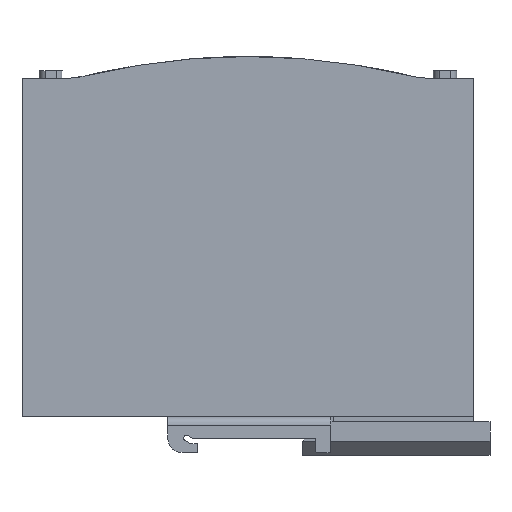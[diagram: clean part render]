
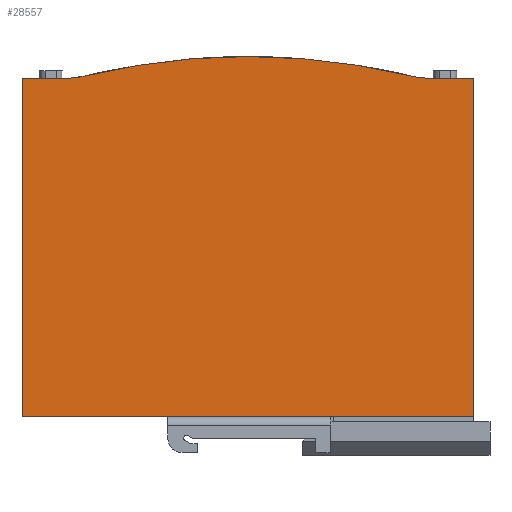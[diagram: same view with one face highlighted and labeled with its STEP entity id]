
A CAD part, left-side view. The second image highlights one B-rep face of the part: STEP entity #28557.
In plain terms, the highlighted planar face has unit normal (-1, 0, 0).
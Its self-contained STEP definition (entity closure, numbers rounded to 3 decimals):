
#98 = DIRECTION ( 'NONE',  ( 0., 0., -1. ) ) ;
#154 = VERTEX_POINT ( 'NONE', #19128 ) ;
#865 = CARTESIAN_POINT ( 'NONE',  ( 0., 125.5, 0. ) ) ;
#1482 = VECTOR ( 'NONE', #10858, 1000. ) ;
#1794 = EDGE_CURVE ( 'NONE', #26874, #22377, #19617, .T. ) ;
#2125 = ORIENTED_EDGE ( 'NONE', *, *, #5789, .T. ) ;
#2345 = VECTOR ( 'NONE', #4452, 1000. ) ;
#2542 = AXIS2_PLACEMENT_3D ( 'NONE', #17445, #27355, #24799 ) ;
#2648 = CIRCLE ( 'NONE', #16833, 193.005 ) ;
#2833 = EDGE_CURVE ( 'NONE', #22434, #22377, #24086, .T. ) ;
#2839 = DIRECTION ( 'NONE',  ( 0., -1., 0. ) ) ;
#3299 = LINE ( 'NONE', #10369, #11376 ) ;
#3415 = CARTESIAN_POINT ( 'NONE',  ( 0., 0., 0. ) ) ;
#3501 = EDGE_CURVE ( 'NONE', #14217, #22782, #7055, .T. ) ;
#3751 = CARTESIAN_POINT ( 'NONE',  ( 0., 12.55, 94. ) ) ;
#3986 = CARTESIAN_POINT ( 'NONE',  ( 0., 112.95, 94. ) ) ;
#4138 = EDGE_CURVE ( 'NONE', #154, #28336, #18586, .T. ) ;
#4212 = LINE ( 'NONE', #16155, #11141 ) ;
#4452 = DIRECTION ( 'NONE',  ( 0., -1., 0. ) ) ;
#5789 = EDGE_CURVE ( 'NONE', #13973, #28336, #8087, .T. ) ;
#6062 = EDGE_CURVE ( 'NONE', #23942, #14217, #4212, .T. ) ;
#6821 = CARTESIAN_POINT ( 'NONE',  ( 0., 125.5, 94. ) ) ;
#7055 = LINE ( 'NONE', #3415, #30431 ) ;
#7120 = EDGE_LOOP ( 'NONE', ( #17167, #15594, #24300, #2125, #29211, #30401, #29287, #21893, #21567 ) ) ;
#8087 = CIRCLE ( 'NONE', #15326, 20. ) ;
#8245 = DIRECTION ( 'NONE',  ( 0., 1., 0. ) ) ;
#8369 = EDGE_CURVE ( 'NONE', #22782, #26874, #16474, .T. ) ;
#8535 = DIRECTION ( 'NONE',  ( 0., 0., -1. ) ) ;
#8566 = CARTESIAN_POINT ( 'NONE',  ( 0., 125.5, 0. ) ) ;
#8660 = EDGE_CURVE ( 'NONE', #22434, #154, #2648, .T. ) ;
#9052 = CARTESIAN_POINT ( 'NONE',  ( 0., 125.5, 94. ) ) ;
#10369 = CARTESIAN_POINT ( 'NONE',  ( 0., 0., 94. ) ) ;
#10858 = DIRECTION ( 'NONE',  ( 0., 0., 1. ) ) ;
#11141 = VECTOR ( 'NONE', #31345, 1000. ) ;
#11376 = VECTOR ( 'NONE', #2839, 1000. ) ;
#11787 = AXIS2_PLACEMENT_3D ( 'NONE', #12851, #17761, #12949 ) ;
#11918 = CARTESIAN_POINT ( 'NONE',  ( 0., 0., 0. ) ) ;
#12851 = CARTESIAN_POINT ( 'NONE',  ( 0., 112.95, 114. ) ) ;
#12949 = DIRECTION ( 'NONE',  ( 0., 0., -1. ) ) ;
#13071 = PLANE ( 'NONE',  #26436 ) ;
#13973 = VERTEX_POINT ( 'NONE', #3751 ) ;
#14217 = VERTEX_POINT ( 'NONE', #11918 ) ;
#15326 = AXIS2_PLACEMENT_3D ( 'NONE', #24612, #17056, #98 ) ;
#15594 = ORIENTED_EDGE ( 'NONE', *, *, #6062, .F. ) ;
#15609 = DIRECTION ( 'NONE',  ( 0., 1., 0. ) ) ;
#16155 = CARTESIAN_POINT ( 'NONE',  ( 0., 0., 0. ) ) ;
#16474 = LINE ( 'NONE', #865, #1482 ) ;
#16833 = AXIS2_PLACEMENT_3D ( 'NONE', #18498, #25950, #8535 ) ;
#17056 = DIRECTION ( 'NONE',  ( 1., 0., 0. ) ) ;
#17167 = ORIENTED_EDGE ( 'NONE', *, *, #3501, .F. ) ;
#17445 = CARTESIAN_POINT ( 'NONE',  ( 0., 62.75, -93.005 ) ) ;
#17472 = CARTESIAN_POINT ( 'NONE',  ( 0., 17.263, 94.563 ) ) ;
#17761 = DIRECTION ( 'NONE',  ( 1., 0., 0. ) ) ;
#18498 = CARTESIAN_POINT ( 'NONE',  ( 0., 62.75, -93.005 ) ) ;
#18586 = CIRCLE ( 'NONE', #2542, 193.005 ) ;
#19128 = CARTESIAN_POINT ( 'NONE',  ( 0., 62.75, 100. ) ) ;
#19544 = EDGE_CURVE ( 'NONE', #13973, #23942, #3299, .T. ) ;
#19617 = LINE ( 'NONE', #9052, #2345 ) ;
#21567 = ORIENTED_EDGE ( 'NONE', *, *, #8369, .F. ) ;
#21893 = ORIENTED_EDGE ( 'NONE', *, *, #1794, .F. ) ;
#22377 = VERTEX_POINT ( 'NONE', #3986 ) ;
#22434 = VERTEX_POINT ( 'NONE', #31274 ) ;
#22782 = VERTEX_POINT ( 'NONE', #8566 ) ;
#23652 = FACE_OUTER_BOUND ( 'NONE', #7120, .T. ) ;
#23780 = CARTESIAN_POINT ( 'NONE',  ( 0., 0., 94. ) ) ;
#23942 = VERTEX_POINT ( 'NONE', #23780 ) ;
#24086 = CIRCLE ( 'NONE', #11787, 20. ) ;
#24300 = ORIENTED_EDGE ( 'NONE', *, *, #19544, .F. ) ;
#24612 = CARTESIAN_POINT ( 'NONE',  ( 0., 12.55, 114. ) ) ;
#24799 = DIRECTION ( 'NONE',  ( 0., 0., -1. ) ) ;
#25950 = DIRECTION ( 'NONE',  ( 1., 0., 0. ) ) ;
#26436 = AXIS2_PLACEMENT_3D ( 'NONE', #30473, #27994, #15609 ) ;
#26874 = VERTEX_POINT ( 'NONE', #6821 ) ;
#27355 = DIRECTION ( 'NONE',  ( 1., 0., 0. ) ) ;
#27994 = DIRECTION ( 'NONE',  ( 1., 0., 0. ) ) ;
#28336 = VERTEX_POINT ( 'NONE', #17472 ) ;
#28557 = ADVANCED_FACE ( 'NONE', ( #23652 ), #13071, .F. ) ;
#29211 = ORIENTED_EDGE ( 'NONE', *, *, #4138, .F. ) ;
#29287 = ORIENTED_EDGE ( 'NONE', *, *, #2833, .T. ) ;
#30401 = ORIENTED_EDGE ( 'NONE', *, *, #8660, .F. ) ;
#30431 = VECTOR ( 'NONE', #8245, 1000. ) ;
#30473 = CARTESIAN_POINT ( 'NONE',  ( 0., 62.75, -93.005 ) ) ;
#31274 = CARTESIAN_POINT ( 'NONE',  ( 0., 108.237, 94.563 ) ) ;
#31345 = DIRECTION ( 'NONE',  ( 0., 0., -1. ) ) ;
